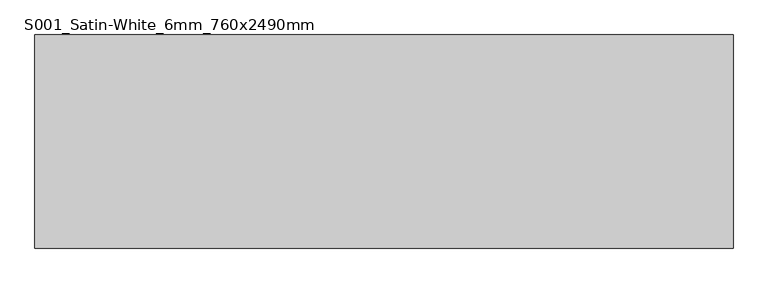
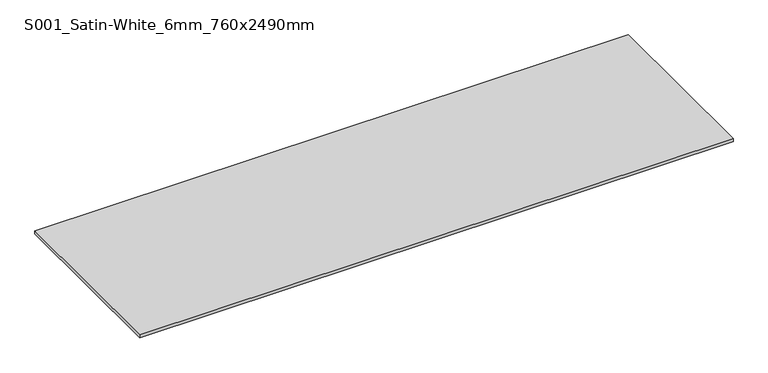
"""IFC4 building model written with IfcOpenShell, lengths in millimetres: proxy geometry, Kitchen_Counter-Tops_Indoor-Material_HI-MACS_Solids : S001_Satin-White_6mm_760x2490mm."""

import ifcopenshell
import ifcopenshell.guid

model = None  # the IFC model being written
_history = None  # IfcOwnerHistory: only IFC2X3 demands one
_inside = {}  # id of a spatial element -> (the spatial element, [elements in it])
_under = {}  # id of a project, library or spatial element -> (it, [spatial elements below it])
_declared = {}  # id of a project -> (the project, [libraries it declares])
_typed = {}  # id of a type object -> (the type object, [elements of that type])
_made_of = {}  # id of a material, layer set ... -> (it, [elements and type objects made of it])


def new_model(schema):
    """Start an empty IFC model of exactly this schema.

    Asked for "IFC4X3", IfcOpenShell would pick the latest addendum, in which some entities
    have other attributes; the version numbers below select the first issue.
    IFC2X3 requires an IfcOwnerHistory on every rooted entity: one is made here for all.
    """
    global model, _history
    if schema == "IFC4X3":
        model = ifcopenshell.file(schema_version=(4, 3, 0, 0))
    else:
        model = ifcopenshell.file(schema=schema)
    _inside.clear()
    _under.clear()
    _declared.clear()
    _typed.clear()
    _made_of.clear()
    _history = None
    if model.schema == "IFC2X3":
        org = make("IfcOrganization", Name="unknown")
        user = make(
            "IfcPersonAndOrganization",
            ThePerson=make("IfcPerson", FamilyName="unknown"),
            TheOrganization=org,
        )
        app = make(
            "IfcApplication",
            ApplicationDeveloper=org,
            Version="unknown",
            ApplicationFullName="unknown",
            ApplicationIdentifier="unknown",
        )
        _history = make(
            "IfcOwnerHistory",
            OwningUser=user,
            OwningApplication=app,
            ChangeAction="ADDED",
            CreationDate=0,
        )
    return model


def make(cls, **values):
    """One entity of the class cls with the attributes given. An attribute that is None is left unset."""
    return model.create_entity(
        cls, **{name: value for name, value in values.items() if value is not None}
    )


def rooted(cls, **values):
    """An entity with a GlobalId (a new one), such as an element, a storey or a relation."""
    return make(cls, GlobalId=ifcopenshell.guid.new(), OwnerHistory=_history, **values)


def si_unit(unit_type, name, prefix=None):
    """IfcSIUnit, for example si_unit("LENGTHUNIT", "METRE", prefix="MILLI")."""
    return make("IfcSIUnit", UnitType=unit_type, Prefix=prefix, Name=name)


def assignment(units):
    """IfcUnitAssignment: the units of a project."""
    return None if units is None else make("IfcUnitAssignment", Units=units)


def point(xyz):
    """IfcCartesianPoint."""
    return None if xyz is None else make("IfcCartesianPoint", Coordinates=xyz)


def direction(xyz):
    """IfcDirection."""
    return None if xyz is None else make("IfcDirection", DirectionRatios=xyz)


def frame(location, z_axis=None, x_axis=None):
    """IfcAxis2Placement3D, a coordinate frame: its origin and axes. An axis left out is left unset."""
    return make(
        "IfcAxis2Placement3D",
        Location=point(location),
        Axis=direction(z_axis),
        RefDirection=direction(x_axis),
    )


def origin():
    """The frame at (0, 0, 0) with its axes left unset."""
    return frame((0.0, 0.0, 0.0))


def origin_with_axes():
    """The frame at (0, 0, 0) with the z axis (0, 0, 1) and the x axis (1, 0, 0) written out."""
    return frame((0.0, 0.0, 0.0), z_axis=(0.0, 0.0, 1.0), x_axis=(1.0, 0.0, 0.0))


def place(relative_to, where):
    """IfcLocalPlacement: puts the frame where relative to a parent placement (None: the world)."""
    return make(
        "IfcLocalPlacement", PlacementRelTo=relative_to, RelativePlacement=where
    )


def context(
    kind, dimensions, precision=None, world=None, true_north=None, identifier=None
):
    """IfcGeometricRepresentationContext, for example the 3D "Model" context."""
    return make(
        "IfcGeometricRepresentationContext",
        ContextIdentifier=identifier,
        ContextType=kind,
        CoordinateSpaceDimension=dimensions,
        Precision=precision,
        WorldCoordinateSystem=world,
        TrueNorth=true_north,
    )


def project(units=None, contexts=None):
    """IfcProject with its units and contexts."""
    return rooted(
        "IfcProject",
        Name="project",
        RepresentationContexts=contexts,
        UnitsInContext=assignment(units),
    )


def spatial(cls, under=None, at=None, **own):
    """A site, building, storey or space (cls), placed at a placement, below another one or the project."""
    s = rooted(cls, ObjectPlacement=at, **own)
    if under is not None:
        _under.setdefault(under.id(), (under, []))[1].append(s)
    return s


def polyline(points):
    """IfcPolyline through the points."""
    return make("IfcPolyline", Points=[point(p) for p in points])


def outline(outer, holes=None, kind="AREA"):
    """IfcArbitraryClosedProfileDef: a profile drawn as a closed curve; with holes, ...WithVoids."""
    if holes is None:
        return make("IfcArbitraryClosedProfileDef", ProfileType=kind, OuterCurve=outer)
    return make(
        "IfcArbitraryProfileDefWithVoids",
        ProfileType=kind,
        OuterCurve=outer,
        InnerCurves=holes,
    )


def extrude(swept, where, along, depth):
    """IfcExtrudedAreaSolid: the profile swept, set in the frame where, extruded along a direction by depth."""
    return make(
        "IfcExtrudedAreaSolid",
        SweptArea=swept,
        Position=where,
        ExtrudedDirection=direction(along),
        Depth=depth,
    )


def shape(context_of_items, identifier, shape_type, items):
    """IfcShapeRepresentation: the items that make up one representation, for example the "Body"."""
    return make(
        "IfcShapeRepresentation",
        ContextOfItems=context_of_items,
        RepresentationIdentifier=identifier,
        RepresentationType=shape_type,
        Items=items,
    )


def source(mapping_origin, context_of_items, identifier, shape_type, items):
    """IfcRepresentationMap: a shape defined once, which mapped items show again and again."""
    return make(
        "IfcRepresentationMap",
        MappingOrigin=mapping_origin,
        MappedRepresentation=shape(context_of_items, identifier, shape_type, items),
    )


def transform(
    local_origin,
    x_axis=None,
    y_axis=None,
    z_axis=None,
    scale=None,
    scale2=None,
    scale3=None,
    uniform=True,
):
    """IfcCartesianTransformationOperator3D, or its non-uniform kind. x_axis, y_axis, z_axis: its Axis1, 2, 3."""
    if uniform:
        return make(
            "IfcCartesianTransformationOperator3D",
            Axis1=direction(x_axis),
            Axis2=direction(y_axis),
            LocalOrigin=point(local_origin),
            Scale=scale,
            Axis3=direction(z_axis),
        )
    return make(
        "IfcCartesianTransformationOperator3DnonUniform",
        Axis1=direction(x_axis),
        Axis2=direction(y_axis),
        LocalOrigin=point(local_origin),
        Scale=scale,
        Axis3=direction(z_axis),
        Scale2=scale2,
        Scale3=scale3,
    )


def mapped(mapping_source, mapping_target):
    """IfcMappedItem: shows the shape of a source again, moved by a transform."""
    return make(
        "IfcMappedItem", MappingSource=mapping_source, MappingTarget=mapping_target
    )


def made_of(thing, what):
    """Note that an element or type object is made of a material, layer set ...; save() writes the relation."""
    if what is not None:
        _made_of.setdefault(what.id(), (what, []))[1].append(thing)
    return thing


def element(
    cls,
    number,
    at=None,
    inside=None,
    cuts=None,
    type_object=None,
    material=None,
    context=None,
    identifier="Body",
    shape_type=None,
    held_by="IfcProductDefinitionShape",
    body=None,
    shapes=None,
    **own,
):
    """One element of the class cls, such as IfcWall. Its Tag is "e" and its number.

    at: its placement. inside: the storey or other place that contains it. cuts: it is an
    opening in that element (IfcRelVoidsElement). A single representation is given by context,
    identifier, shape_type and body (its items); several are given by shapes. held_by: the class
    of the entity that holds the representations. save() writes the other relations.
    """
    e = rooted(cls, Tag="e%d" % number, ObjectPlacement=at, **own)
    if body is not None:
        shapes = [shape(context, identifier, shape_type, body)]
    if shapes is not None:
        e.Representation = make(held_by, Representations=shapes)
    if inside is not None:
        _inside.setdefault(inside.id(), (inside, []))[1].append(e)
    if cuts is not None:
        rooted(
            "IfcRelVoidsElement", RelatingBuildingElement=cuts, RelatedOpeningElement=e
        )
    if type_object is not None:
        _typed.setdefault(type_object.id(), (type_object, []))[1].append(e)
    return made_of(e, material)


def aggregate(whole, parts):
    """IfcRelAggregates: a whole, such as a stair, and the parts it consists of."""
    return rooted("IfcRelAggregates", RelatingObject=whole, RelatedObjects=parts)


def save(model, path):
    """Write the relations noted so far, then the file.

    IfcRelAggregates (storeys below a building ...), IfcRelContainedInSpatialStructure (elements
    in a storey), IfcRelDefinesByType, IfcRelAssociatesMaterial and IfcRelDeclares: one each for
    every whole, place, type object, material and project.
    """
    for whole, parts in _under.values():
        aggregate(whole, parts)
    for where, things in _inside.values():
        rooted(
            "IfcRelContainedInSpatialStructure",
            RelatedElements=things,
            RelatingStructure=where,
        )
    for kind, things in _typed.values():
        rooted("IfcRelDefinesByType", RelatedObjects=things, RelatingType=kind)
    for what, things in _made_of.values():
        rooted("IfcRelAssociatesMaterial", RelatedObjects=things, RelatingMaterial=what)
    for by, libraries in _declared.values():
        rooted("IfcRelDeclares", RelatingContext=by, RelatedDefinitions=libraries)
    model.write(path)


def s001_satin_white_6mm_760x2490mm_c0a7b58a(model_context):
    return source(origin(), model_context, "Body", "SweptSolid", [
        extrude(outline(polyline([(1245.0, 380.0), (1245.0, -380.0), (-1245.0, -380.0), (-1245.0, 380.0), (1245.0, 380.0)])), origin_with_axes(), (0.0, 0.0, 1.0), 12.0),
    ])


if __name__ == "__main__":
    model = new_model("IFC4")
    model_context = context("Model", 3, world=origin())
    ifc_project = project(units=[si_unit("LENGTHUNIT", "METRE", prefix="MILLI")], contexts=[model_context])
    site = spatial("IfcSite", under=ifc_project)
    building = spatial("IfcBuilding", under=site)
    placement = place(None, origin())
    s001_satin_white_6mm_760x2490mm_shape = s001_satin_white_6mm_760x2490mm_c0a7b58a(model_context)
    element("IfcBuildingElementProxy", 1, Name="Kitchen_Counter-Tops_Indoor-Material_HI-MACS_Solids : S001_Satin-White_6mm_760x2490mm", ObjectType="Kitchen_Counter-Tops_Indoor-Material_HI-MACS_Solids : S001_Satin-White_6mm_760x2490mm", at=placement, inside=building, context=model_context, shape_type="MappedRepresentation", body=[
        mapped(s001_satin_white_6mm_760x2490mm_shape, transform((0.0, 0.0, 0.0), x_axis=(1.0, 0.0, 0.0), y_axis=(0.0, 1.0, 0.0), z_axis=(0.0, 0.0, 1.0))),
    ])
    save(model, "model.ifc")
